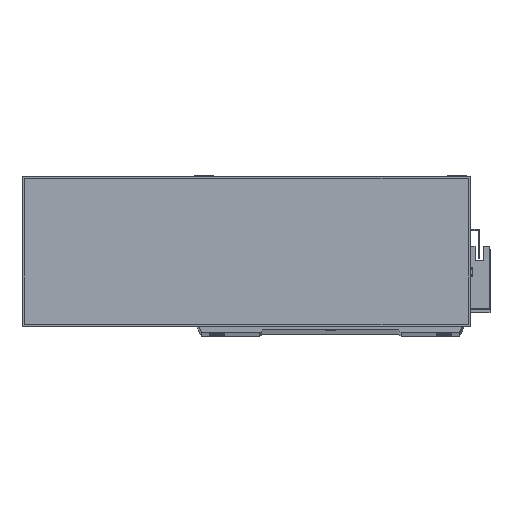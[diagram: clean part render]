
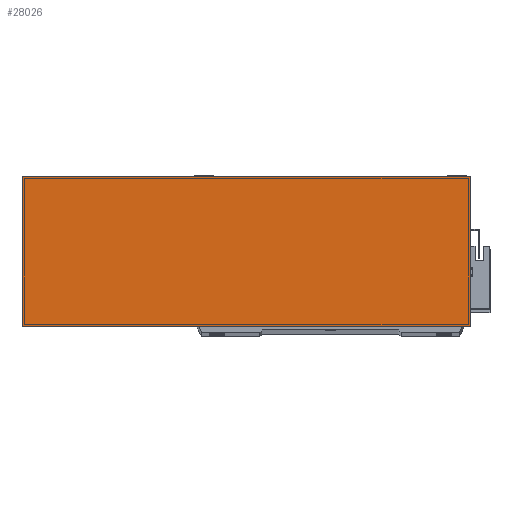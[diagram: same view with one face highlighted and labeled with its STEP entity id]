
A CAD part, top view. The second image highlights one B-rep face of the part: STEP entity #28026.
In plain terms, the highlighted planar face has unit normal (0, 0, 1).
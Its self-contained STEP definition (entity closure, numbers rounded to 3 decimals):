
#472 = VECTOR ( 'NONE', #25643, 1000. ) ;
#1141 = FACE_OUTER_BOUND ( 'NONE', #29143, .T. ) ;
#1231 = ORIENTED_EDGE ( 'NONE', *, *, #19803, .T. ) ;
#1250 = DIRECTION ( 'NONE',  ( -1., 0., 0. ) ) ;
#1343 = ORIENTED_EDGE ( 'NONE', *, *, #25988, .T. ) ;
#1885 = EDGE_CURVE ( 'NONE', #10888, #2449, #2274, .T. ) ;
#2274 = LINE ( 'NONE', #9593, #13969 ) ;
#2449 = VERTEX_POINT ( 'NONE', #28813 ) ;
#5946 = CARTESIAN_POINT ( 'NONE',  ( 0., 93., 50. ) ) ;
#6429 = DIRECTION ( 'NONE',  ( 0., 0., -1. ) ) ;
#6727 = EDGE_CURVE ( 'NONE', #23645, #10888, #29109, .T. ) ;
#6911 = CARTESIAN_POINT ( 'NONE',  ( 277., 0., 50. ) ) ;
#7014 = VERTEX_POINT ( 'NONE', #9322 ) ;
#7457 = VECTOR ( 'NONE', #14988, 1000. ) ;
#8997 = DIRECTION ( 'NONE',  ( 0., -1., 0. ) ) ;
#9322 = CARTESIAN_POINT ( 'NONE',  ( 277., 0., 50. ) ) ;
#9593 = CARTESIAN_POINT ( 'NONE',  ( 0., 0., 50. ) ) ;
#10888 = VERTEX_POINT ( 'NONE', #26681 ) ;
#12636 = CARTESIAN_POINT ( 'NONE',  ( 0., 0., 50. ) ) ;
#13374 = CARTESIAN_POINT ( 'NONE',  ( 0., 0., 50. ) ) ;
#13969 = VECTOR ( 'NONE', #8997, 1000. ) ;
#14988 = DIRECTION ( 'NONE',  ( 1., 0., 0. ) ) ;
#15019 = ORIENTED_EDGE ( 'NONE', *, *, #6727, .T. ) ;
#17154 = CARTESIAN_POINT ( 'NONE',  ( 277., 93., 50. ) ) ;
#18072 = PLANE ( 'NONE',  #21061 ) ;
#18410 = LINE ( 'NONE', #6911, #472 ) ;
#19803 = EDGE_CURVE ( 'NONE', #7014, #23645, #18410, .T. ) ;
#21061 = AXIS2_PLACEMENT_3D ( 'NONE', #13374, #6429, #22799 ) ;
#22799 = DIRECTION ( 'NONE',  ( -1., 0., 0. ) ) ;
#22908 = VECTOR ( 'NONE', #1250, 1000. ) ;
#23645 = VERTEX_POINT ( 'NONE', #17154 ) ;
#24461 = ORIENTED_EDGE ( 'NONE', *, *, #1885, .T. ) ;
#25643 = DIRECTION ( 'NONE',  ( 0., 1., 0. ) ) ;
#25988 = EDGE_CURVE ( 'NONE', #2449, #7014, #26137, .T. ) ;
#26137 = LINE ( 'NONE', #12636, #7457 ) ;
#26681 = CARTESIAN_POINT ( 'NONE',  ( 0., 93., 50. ) ) ;
#28026 = ADVANCED_FACE ( 'NONE', ( #1141 ), #18072, .F. ) ;
#28813 = CARTESIAN_POINT ( 'NONE',  ( 0., 0., 50. ) ) ;
#29109 = LINE ( 'NONE', #5946, #22908 ) ;
#29143 = EDGE_LOOP ( 'NONE', ( #24461, #1343, #1231, #15019 ) ) ;
